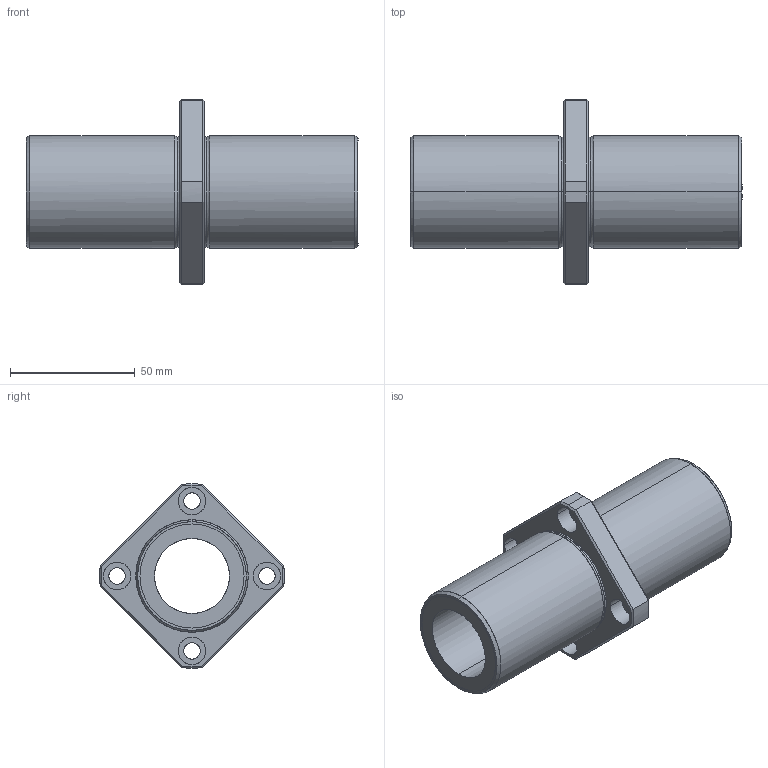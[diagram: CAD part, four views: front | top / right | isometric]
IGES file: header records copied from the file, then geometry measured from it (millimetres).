
Global section: file name: No Iges File Name specified; native system: AutoDesk Inventor R10; preprocessor: AutoDesk Inventor Iges Exporter R10; author: No Author specified; organization: No Organization specified; date: 20101216.153629; units: millimetre
Bounding box: 133 x 73.99 x 74 mm (x, y, z)
Surface area: 37997.7 mm2 (no closed solid volume)
Topology: 0 solids, 0 shells, 78 faces, 472 edges, 472 vertices
Faces by surface type: bspline 78
